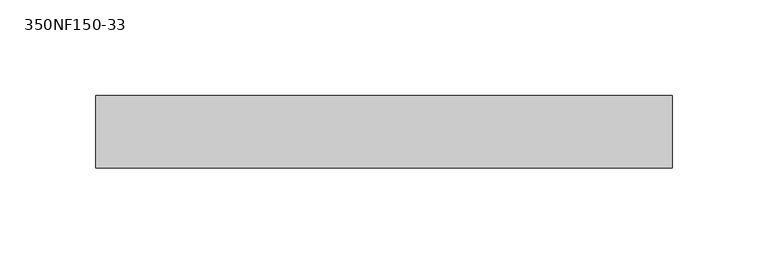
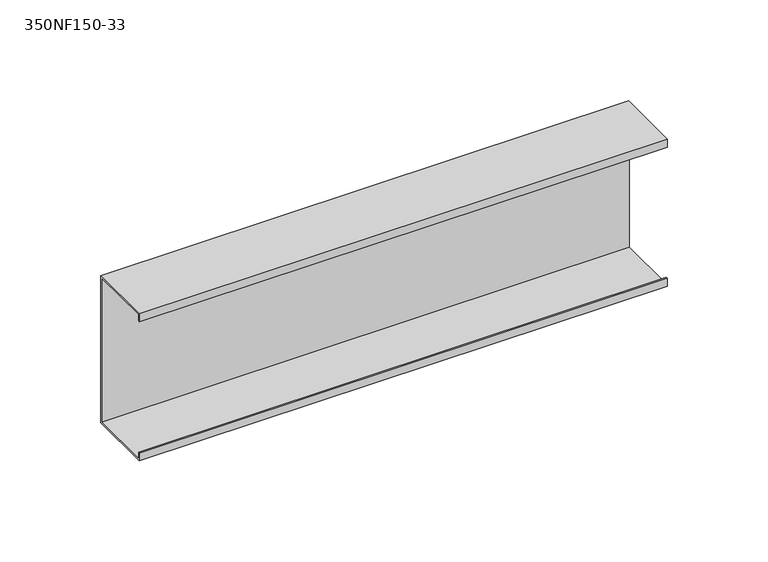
"""IFC4 building model written with IfcOpenShell, lengths in millimetres: beam geometry, BIMSF-SSMA-S : 350NF150-33."""

from ifc_helpers import new_model, si_unit, frame, origin, place, context, project, spatial, polyline, outline, extrude, source, transform, mapped, element, save


def beam_350nf150_33_23912f3a(model_context):
    return source(origin(), model_context, "Body", "SweptSolid", [
        extrude(outline(polyline([(19.05, 44.45), (19.05, -44.45), (-19.05, -44.45), (-19.05, -39.6748), (-18.1676842, -39.6748), (-18.1676842, -43.5676842), (18.1676842, -43.5676842), (18.1676842, 43.5676842), (-18.1676842, 43.5676842), (-18.1676842, 39.6748), (-19.05, 39.6748), (-19.05, 44.45), (19.05, 44.45)])), frame((-150.8942804, 0.0, 0.0), z_axis=(1.0, 0.0, 0.0), x_axis=(0.0, 1.0, 0.0)), (0.0, 0.0, 1.0), 301.7885607),
    ])


if __name__ == "__main__":
    model = new_model("IFC4")
    model_context = context("Model", 3, world=origin())
    ifc_project = project(units=[si_unit("LENGTHUNIT", "METRE", prefix="MILLI")], contexts=[model_context])
    site = spatial("IfcSite", under=ifc_project)
    building = spatial("IfcBuilding", under=site)
    placement = place(None, origin())
    beam_350nf150_33_shape = beam_350nf150_33_23912f3a(model_context)
    element("IfcBeam", 1, ObjectType="BIMSF-SSMA-S : 350NF150-33", at=placement, inside=building, context=model_context, shape_type="MappedRepresentation", body=[
        mapped(beam_350nf150_33_shape, transform((0.0, 0.0, 0.0), x_axis=(1.0, 0.0, 0.0), y_axis=(0.0, 1.0, 0.0), z_axis=(0.0, 0.0, 1.0))),
    ])
    save(model, "model.ifc")
